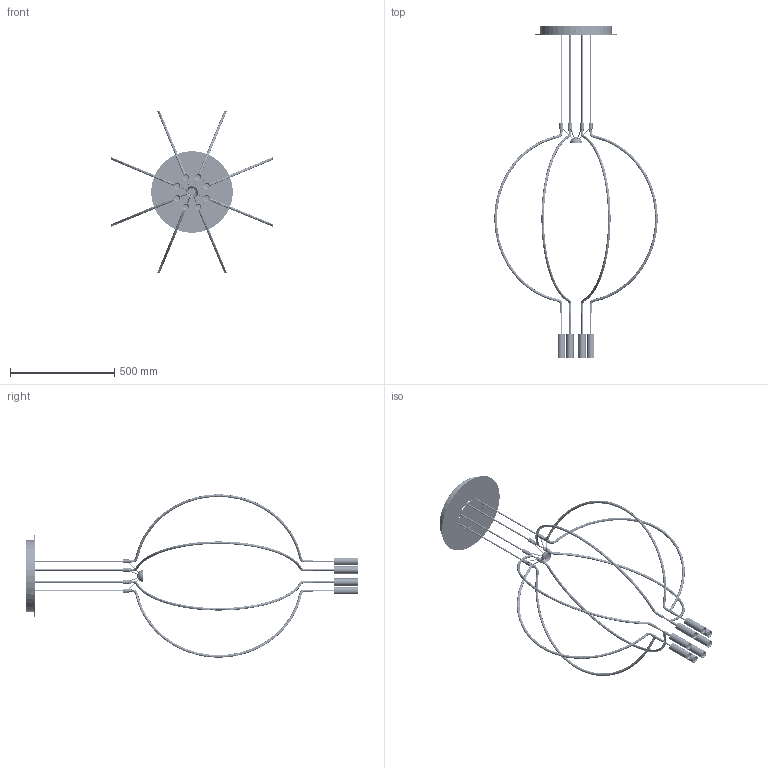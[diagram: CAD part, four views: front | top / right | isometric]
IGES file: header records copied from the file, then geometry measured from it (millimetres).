
Start section: SolidWorks IGES file using analytic representation for surfaces
Global section: file name: \\STORAGE\Tecnico Condiviso\10 NUOVI PROGETTI IN SVILUPPO\NUOVI PROGETTI AXO\AXO058 LIAISON\DRAW\3D\wetransfer-f940a2\1.0A.AXO01.LS05.A1\SPLIAIM8XXXXLED-PER 3D.IGS; native system: SolidWorks 2018; preprocessor: SolidWorks 2018; author: tecnico3; date: 180924.092502; units: millimetre
Bounding box: 781.59 x 1589.45 x 781.59 mm (x, y, z)
Surface area: 1848235.9 mm2 (no closed solid volume)
Topology: 0 solids, 0 shells, 4288 faces, 68532 edges, 68472 vertices
Faces by surface type: revolution 2158, bspline 2130
